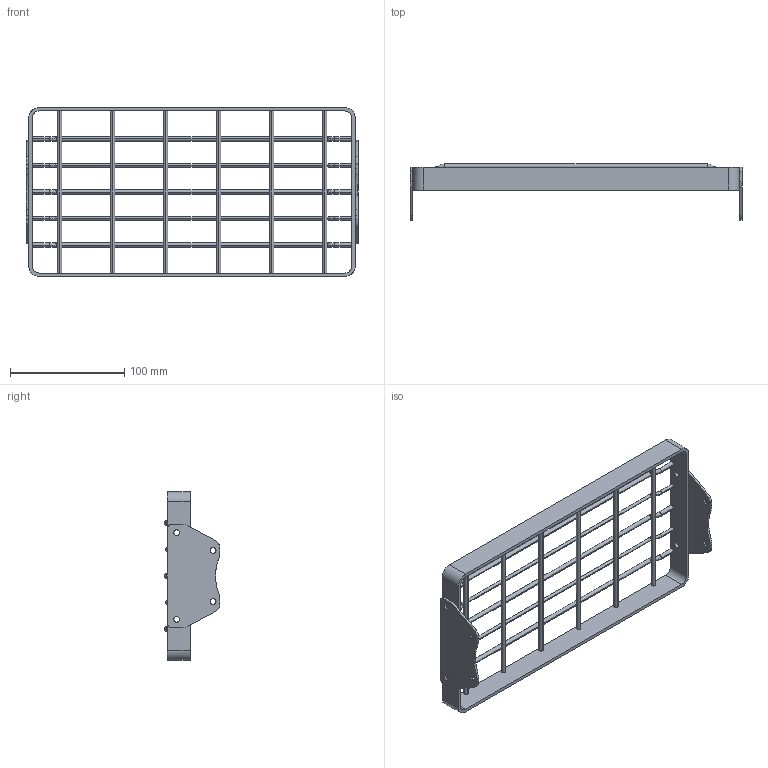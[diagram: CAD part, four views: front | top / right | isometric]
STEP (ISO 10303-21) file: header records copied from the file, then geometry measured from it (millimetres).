
FILE_DESCRIPTION(/* description */ (''),/* implementation_level */ '2;1');
FILE_NAME(/* name */ 'ROXX_NEO mini i_Guard_3D_step',/* time_stamp */ '2025-07-25T13:51:33+02:00',/* author */ (''),/* organization */ (''),/* preprocessor_version */ 'ST-DEVELOPER v16.5',/* originating_system */ 'Rhino 7.38',/* authorisation */ '');
FILE_SCHEMA (('CONFIG_CONTROL_DESIGN'));
Length unit declared in the file: millimetre
Products named in the file (1): Document
Bounding box: 291 x 49 x 148 mm (x, y, z)
Volume: 89658.5 mm3; surface area: 79885.9 mm2
Topology: 1 solids, 1 shells, 176 faces, 516 edges, 320 vertices
Faces by surface type: cylinder 108, bspline 40, plane 28
Entity records: 8870 total; most frequent: CARTESIAN_POINT 5660, ORIENTED_EDGE 1032, EDGE_CURVE 516, VERTEX_POINT 320, B_SPLINE_CURVE_WITH_KNOTS 230, EDGE_LOOP 218, ADVANCED_FACE 176, FACE_OUTER_BOUND 176
